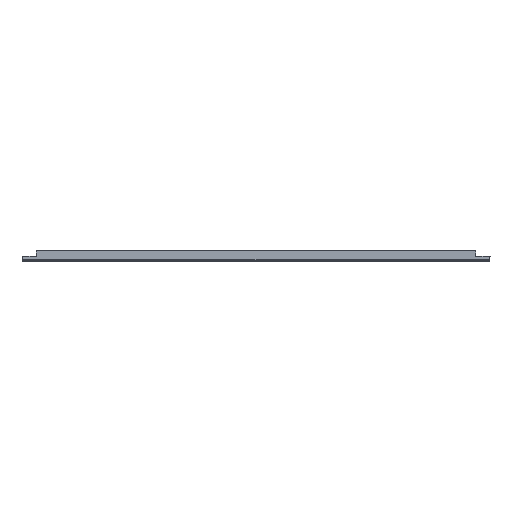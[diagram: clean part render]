
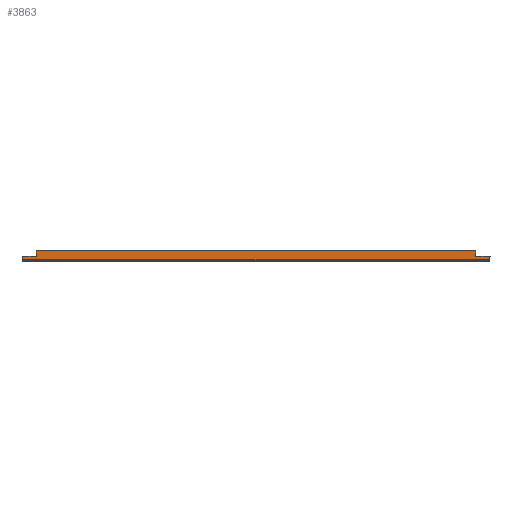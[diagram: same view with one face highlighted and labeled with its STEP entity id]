
A CAD part, front view. The second image highlights one B-rep face of the part: STEP entity #3863.
In plain terms, the highlighted planar face has unit normal (0, -1, 0) as drawn and (0, 0, 1) by its records, which use the part's own axes.
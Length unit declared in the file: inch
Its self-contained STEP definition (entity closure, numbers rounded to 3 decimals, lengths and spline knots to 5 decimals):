
#1788 = CARTESIAN_POINT ( 'NONE',  ( 19.56681, 0.927, 38.17 ) ) ;
#1789 = DIRECTION ( 'NONE',  ( 1., 0., 0. ) ) ;
#1790 = VECTOR ( 'NONE', #1789, 39.37008 ) ;
#1791 = CARTESIAN_POINT ( 'NONE',  ( 20.72835, 0.927, 38.17 ) ) ;
#1792 = LINE ( 'NONE', #1791, #1790 ) ;
#1816 = CARTESIAN_POINT ( 'NONE',  ( -19.56681, 0.927, 38.17 ) ) ;
#1817 = DIRECTION ( 'NONE',  ( -1., 0., 0. ) ) ;
#1818 = VECTOR ( 'NONE', #1817, 39.37008 ) ;
#1828 = CARTESIAN_POINT ( 'NONE',  ( 20.72835, 0.115, 38.17 ) ) ;
#1829 = LINE ( 'NONE', #1828, #1818 ) ;
#1872 = CARTESIAN_POINT ( 'NONE',  ( 20.78481, 0.115, 38.17 ) ) ;
#1892 = CARTESIAN_POINT ( 'NONE',  ( -20.78481, 0.115, 38.17 ) ) ;
#1992 = LINE ( 'NONE', #2017, #2016 ) ;
#1994 = DIRECTION ( 'NONE',  ( 0., 1., 0. ) ) ;
#1995 = VECTOR ( 'NONE', #1994, 39.37008 ) ;
#1996 = CARTESIAN_POINT ( 'NONE',  ( 20.78481, 0.115, 38.17 ) ) ;
#2007 = LINE ( 'NONE', #1996, #1995 ) ;
#2008 = DIRECTION ( 'NONE',  ( -1., 0., 0. ) ) ;
#2009 = VECTOR ( 'NONE', #2008, 39.37008 ) ;
#2010 = CARTESIAN_POINT ( 'NONE',  ( 20.78481, 0.435, 38.17 ) ) ;
#2011 = LINE ( 'NONE', #2010, #2009 ) ;
#2015 = DIRECTION ( 'NONE',  ( 0., 1., 0. ) ) ;
#2016 = VECTOR ( 'NONE', #2015, 39.37008 ) ;
#2017 = CARTESIAN_POINT ( 'NONE',  ( -19.56681, 0.927, 38.17 ) ) ;
#2099 = CARTESIAN_POINT ( 'NONE',  ( -19.56681, 0.435, 38.17 ) ) ;
#2100 = DIRECTION ( 'NONE',  ( 0., 1., 0. ) ) ;
#2101 = VECTOR ( 'NONE', #2100, 39.37008 ) ;
#2102 = CARTESIAN_POINT ( 'NONE',  ( 19.56681, 0.927, 38.17 ) ) ;
#2145 = PLANE ( 'NONE',  #2180 ) ;
#2146 = FACE_OUTER_BOUND ( 'NONE', #3864, .T. ) ;
#2147 = CARTESIAN_POINT ( 'NONE',  ( 19.56681, 0.435, 38.17 ) ) ;
#2177 = DIRECTION ( 'NONE',  ( 0., 1., 0. ) ) ;
#2178 = DIRECTION ( 'NONE',  ( 0., 0., 1. ) ) ;
#2179 = CARTESIAN_POINT ( 'NONE',  ( 20.72835, 0.055, 38.17 ) ) ;
#2180 = AXIS2_PLACEMENT_3D ( 'NONE', #2179, #2178, #2177 ) ;
#2181 = LINE ( 'NONE', #2102, #2101 ) ;
#2189 = CARTESIAN_POINT ( 'NONE',  ( 20.78481, 0.435, 38.17 ) ) ;
#2193 = DIRECTION ( 'NONE',  ( 0., 1., 0. ) ) ;
#2194 = VECTOR ( 'NONE', #2193, 39.37008 ) ;
#2195 = CARTESIAN_POINT ( 'NONE',  ( -20.78481, 0.115, 38.17 ) ) ;
#2196 = LINE ( 'NONE', #2195, #2194 ) ;
#2203 = DIRECTION ( 'NONE',  ( 1., 0., 0. ) ) ;
#2204 = VECTOR ( 'NONE', #2203, 39.37008 ) ;
#2205 = CARTESIAN_POINT ( 'NONE',  ( -20.78481, 0.435, 38.17 ) ) ;
#2206 = LINE ( 'NONE', #2205, #2204 ) ;
#2207 = CARTESIAN_POINT ( 'NONE',  ( -20.78481, 0.435, 38.17 ) ) ;
#3732 = VERTEX_POINT ( 'NONE', #1892 ) ;
#3741 = VERTEX_POINT ( 'NONE', #1872 ) ;
#3748 = EDGE_CURVE ( 'NONE', #3741, #3732, #1829, .T. ) ;
#3749 = VERTEX_POINT ( 'NONE', #1816 ) ;
#3754 = EDGE_CURVE ( 'NONE', #3749, #3756, #1792, .T. ) ;
#3756 = VERTEX_POINT ( 'NONE', #1788 ) ;
#3780 = ORIENTED_EDGE ( 'NONE', *, *, #3748, .F. ) ;
#3781 = ORIENTED_EDGE ( 'NONE', *, *, #3785, .T. ) ;
#3783 = ORIENTED_EDGE ( 'NONE', *, *, #3784, .T. ) ;
#3784 = EDGE_CURVE ( 'NONE', #3857, #3862, #2011, .T. ) ;
#3785 = EDGE_CURVE ( 'NONE', #3741, #3857, #2007, .T. ) ;
#3787 = EDGE_CURVE ( 'NONE', #3868, #3749, #1992, .T. ) ;
#3857 = VERTEX_POINT ( 'NONE', #2189 ) ;
#3860 = ORIENTED_EDGE ( 'NONE', *, *, #3865, .T. ) ;
#3862 = VERTEX_POINT ( 'NONE', #2147 ) ;
#3863 = ADVANCED_FACE ( 'NONE', ( #2146 ), #2145, .T. ) ;
#3864 = EDGE_LOOP ( 'NONE', ( #3860, #3866, #3867, #3869, #3873, #3780, #3781, #3783 ) ) ;
#3865 = EDGE_CURVE ( 'NONE', #3862, #3756, #2181, .T. ) ;
#3866 = ORIENTED_EDGE ( 'NONE', *, *, #3754, .F. ) ;
#3867 = ORIENTED_EDGE ( 'NONE', *, *, #3787, .F. ) ;
#3868 = VERTEX_POINT ( 'NONE', #2099 ) ;
#3869 = ORIENTED_EDGE ( 'NONE', *, *, #3872, .F. ) ;
#3870 = VERTEX_POINT ( 'NONE', #2207 ) ;
#3872 = EDGE_CURVE ( 'NONE', #3870, #3868, #2206, .T. ) ;
#3873 = ORIENTED_EDGE ( 'NONE', *, *, #3874, .F. ) ;
#3874 = EDGE_CURVE ( 'NONE', #3732, #3870, #2196, .T. ) ;
